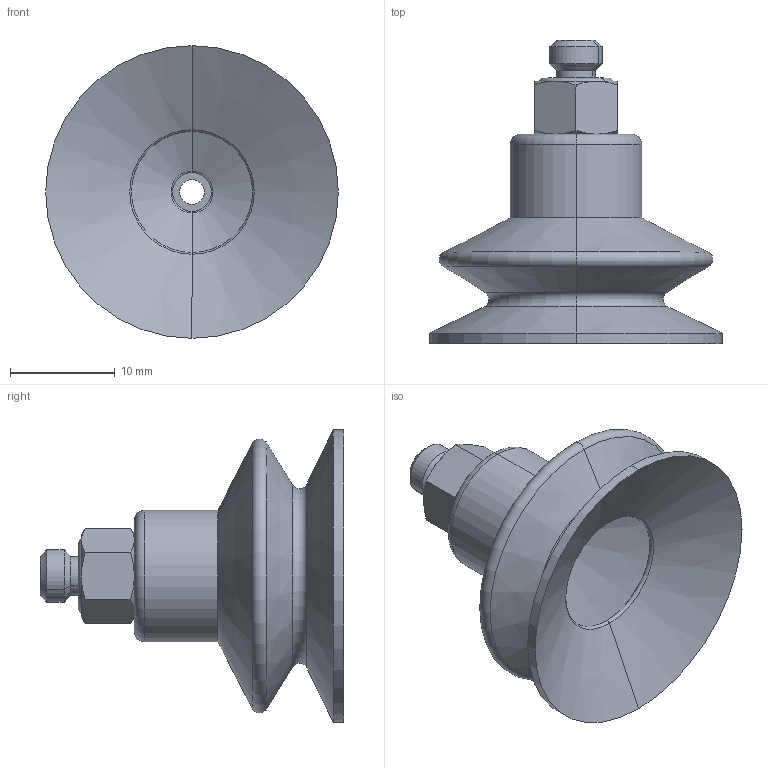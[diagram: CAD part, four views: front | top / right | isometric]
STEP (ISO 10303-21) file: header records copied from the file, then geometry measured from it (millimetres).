
FILE_DESCRIPTION (( 'STEP AP214' ), '1' );
FILE_NAME ('15B.028.001.V-M5.STEP', '2024-08-13T15:31:40', ( '' ), ( '' ), 'SwSTEP 2.0', 'SolidWorks 2018', '' );
FILE_SCHEMA (( 'AUTOMOTIVE_DESIGN' ));
Length unit declared in the file: inch
Products named in the file (3): 130.134-2; 15B.028.001; 15B.028.001.V-M5
Assembly tree (2 placements, depth 2):
  15B.028.001.V-M5
    15B.028.001
    130.134-2
Bounding box: 28 x 29.05 x 28 mm (x, y, z)
Volume: 2889 mm3; surface area: 4030 mm2
Topology: 3 solids, 3 shells, 89 faces, 188 edges, 108 vertices
Faces by surface type: cone 38, torus 20, cylinder 16, plane 15
Entity records: 2693 total; most frequent: CARTESIAN_POINT 608, DIRECTION 462, ORIENTED_EDGE 376, AXIS2_PLACEMENT_3D 204, EDGE_CURVE 188, CIRCLE 110, VERTEX_POINT 108, EDGE_LOOP 98
